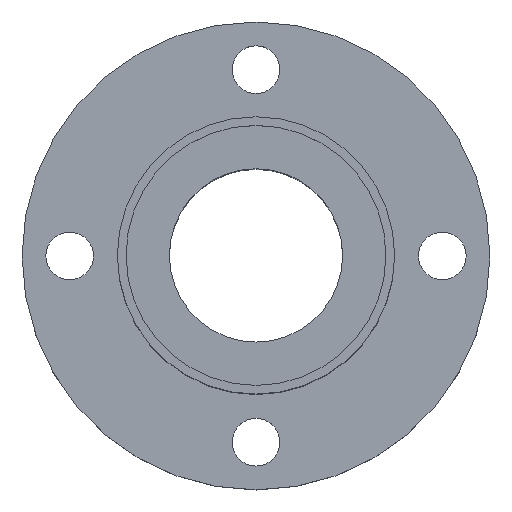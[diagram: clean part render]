
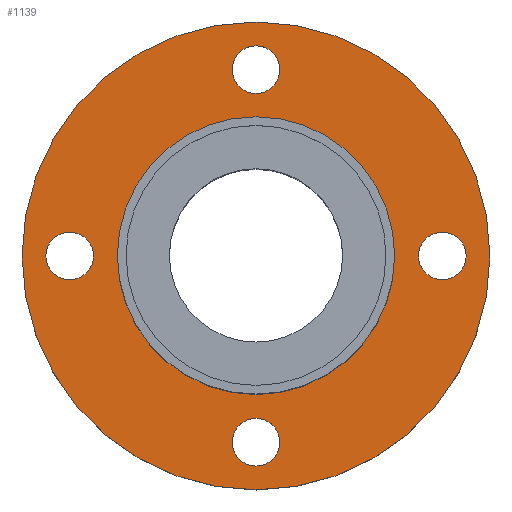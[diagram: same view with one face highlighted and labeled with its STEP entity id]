
A CAD part, top view. The second image highlights one B-rep face of the part: STEP entity #1139.
In plain terms, the highlighted planar face has unit normal (0, 0, 1).
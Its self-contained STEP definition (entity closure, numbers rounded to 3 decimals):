
#51=CARTESIAN_POINT('',(-27.0,-0.1,8.0));
#52=VERTEX_POINT('',#51);
#68=CARTESIAN_POINT('',(27.0,-0.1,8.0));
#69=VERTEX_POINT('',#68);
#76=CARTESIAN_POINT('',(0.0,-0.1,8.0));
#77=DIRECTION('',(0.0,0.0,-1.0));
#78=DIRECTION('',(-1.0,0.0,0.0));
#79=AXIS2_PLACEMENT_3D('',#76,#77,#78);
#80=CIRCLE('',#79,27.0);
#81=EDGE_CURVE('',#69,#52,#80,.T.);
#133=CARTESIAN_POINT('',(-16.0,-0.1,8.0));
#134=VERTEX_POINT('',#133);
#143=CARTESIAN_POINT('',(16.0,-0.1,8.0));
#144=VERTEX_POINT('',#143);
#145=CARTESIAN_POINT('',(0.0,-0.1,8.0));
#146=DIRECTION('',(0.0,0.0,-1.0));
#147=DIRECTION('',(-1.0,0.0,0.0));
#148=AXIS2_PLACEMENT_3D('',#145,#146,#147);
#149=CIRCLE('',#148,16.0);
#150=EDGE_CURVE('',#144,#134,#149,.T.);
#345=CARTESIAN_POINT('',(0.0,18.65,8.0));
#346=VERTEX_POINT('',#345);
#362=CARTESIAN_POINT('',(0.,24.15,8.));
#363=VERTEX_POINT('',#362);
#370=CARTESIAN_POINT('',(0.0,21.4,8.));
#371=DIRECTION('',(0.0,0.0,-1.0));
#372=DIRECTION('',(0.0,-1.0,0.0));
#373=AXIS2_PLACEMENT_3D('',#370,#371,#372);
#374=CIRCLE('',#373,2.75);
#375=EDGE_CURVE('',#346,#363,#374,.T.);
#429=CARTESIAN_POINT('',(-18.75,-0.1,8.0));
#430=VERTEX_POINT('',#429);
#446=CARTESIAN_POINT('',(-24.25,-0.1,8.));
#447=VERTEX_POINT('',#446);
#454=CARTESIAN_POINT('',(-21.5,-0.1,8.));
#455=DIRECTION('',(0.0,0.0,-1.0));
#456=DIRECTION('',(1.0,0.0,0.0));
#457=AXIS2_PLACEMENT_3D('',#454,#455,#456);
#458=CIRCLE('',#457,2.75);
#459=EDGE_CURVE('',#430,#447,#458,.T.);
#513=CARTESIAN_POINT('',(0.,-18.85,8.0));
#514=VERTEX_POINT('',#513);
#530=CARTESIAN_POINT('',(0.,-24.35,8.));
#531=VERTEX_POINT('',#530);
#538=CARTESIAN_POINT('',(0.,-21.6,8.));
#539=DIRECTION('',(0.0,0.0,-1.0));
#540=DIRECTION('',(0.0,1.0,0.0));
#541=AXIS2_PLACEMENT_3D('',#538,#539,#540);
#542=CIRCLE('',#541,2.75);
#543=EDGE_CURVE('',#514,#531,#542,.T.);
#597=CARTESIAN_POINT('',(18.75,-0.1,8.0));
#598=VERTEX_POINT('',#597);
#614=CARTESIAN_POINT('',(24.25,-0.1,8.));
#615=VERTEX_POINT('',#614);
#622=CARTESIAN_POINT('',(21.5,-0.1,8.));
#623=DIRECTION('',(0.0,0.0,-1.0));
#624=DIRECTION('',(-1.0,0.0,0.0));
#625=AXIS2_PLACEMENT_3D('',#622,#623,#624);
#626=CIRCLE('',#625,2.75);
#627=EDGE_CURVE('',#598,#615,#626,.T.);
#638=CARTESIAN_POINT('',(21.5,-0.1,8.));
#639=DIRECTION('',(0.0,0.0,-1.0));
#640=DIRECTION('',(-1.0,0.0,0.0));
#641=AXIS2_PLACEMENT_3D('',#638,#639,#640);
#642=CIRCLE('',#641,2.75);
#643=EDGE_CURVE('',#615,#598,#642,.T.);
#700=CARTESIAN_POINT('',(0.,-21.6,8.));
#701=DIRECTION('',(0.0,0.0,-1.0));
#702=DIRECTION('',(0.0,1.0,0.0));
#703=AXIS2_PLACEMENT_3D('',#700,#701,#702);
#704=CIRCLE('',#703,2.75);
#705=EDGE_CURVE('',#531,#514,#704,.T.);
#762=CARTESIAN_POINT('',(-21.5,-0.1,8.));
#763=DIRECTION('',(0.0,0.0,-1.0));
#764=DIRECTION('',(1.0,0.0,0.0));
#765=AXIS2_PLACEMENT_3D('',#762,#763,#764);
#766=CIRCLE('',#765,2.75);
#767=EDGE_CURVE('',#447,#430,#766,.T.);
#824=CARTESIAN_POINT('',(0.0,21.4,8.));
#825=DIRECTION('',(0.0,0.0,-1.0));
#826=DIRECTION('',(0.0,-1.0,0.0));
#827=AXIS2_PLACEMENT_3D('',#824,#825,#826);
#828=CIRCLE('',#827,2.75);
#829=EDGE_CURVE('',#363,#346,#828,.T.);
#1056=CARTESIAN_POINT('',(0.0,-0.1,8.0));
#1057=DIRECTION('',(0.0,0.0,-1.0));
#1058=DIRECTION('',(-1.0,0.0,0.0));
#1059=AXIS2_PLACEMENT_3D('',#1056,#1057,#1058);
#1060=CIRCLE('',#1059,16.0);
#1061=EDGE_CURVE('',#134,#144,#1060,.T.);
#1098=CARTESIAN_POINT('',(0.0,-0.1,8.0));
#1099=DIRECTION('',(0.0,0.0,-1.0));
#1100=DIRECTION('',(-1.0,0.0,0.0));
#1101=AXIS2_PLACEMENT_3D('',#1098,#1099,#1100);
#1102=CIRCLE('',#1101,27.0);
#1103=EDGE_CURVE('',#52,#69,#1102,.T.);
#1110=CARTESIAN_POINT('',(0.0,-0.1,8.0));
#1111=DIRECTION('',(0.0,0.0,-1.0));
#1112=DIRECTION('',(-1.0,0.0,0.0));
#1113=AXIS2_PLACEMENT_3D('',#1110,#1111,#1112);
#1114=PLANE('',#1113);
#1115=ORIENTED_EDGE('',*,*,#81,.F.);
#1116=ORIENTED_EDGE('',*,*,#1103,.F.);
#1117=EDGE_LOOP('',(#1115,#1116));
#1118=FACE_OUTER_BOUND('',#1117,.T.);
#1119=ORIENTED_EDGE('',*,*,#627,.T.);
#1120=ORIENTED_EDGE('',*,*,#643,.T.);
#1121=EDGE_LOOP('',(#1119,#1120));
#1122=FACE_BOUND('',#1121,.T.);
#1123=ORIENTED_EDGE('',*,*,#543,.T.);
#1124=ORIENTED_EDGE('',*,*,#705,.T.);
#1125=EDGE_LOOP('',(#1123,#1124));
#1126=FACE_BOUND('',#1125,.T.);
#1127=ORIENTED_EDGE('',*,*,#459,.T.);
#1128=ORIENTED_EDGE('',*,*,#767,.T.);
#1129=EDGE_LOOP('',(#1127,#1128));
#1130=FACE_BOUND('',#1129,.T.);
#1131=ORIENTED_EDGE('',*,*,#375,.T.);
#1132=ORIENTED_EDGE('',*,*,#829,.T.);
#1133=EDGE_LOOP('',(#1131,#1132));
#1134=FACE_BOUND('',#1133,.T.);
#1135=ORIENTED_EDGE('',*,*,#150,.T.);
#1136=ORIENTED_EDGE('',*,*,#1061,.T.);
#1137=EDGE_LOOP('',(#1135,#1136));
#1138=FACE_BOUND('',#1137,.T.);
#1139=ADVANCED_FACE('',(#1118,#1122,#1126,#1130,#1134,#1138),#1114,.F.);
